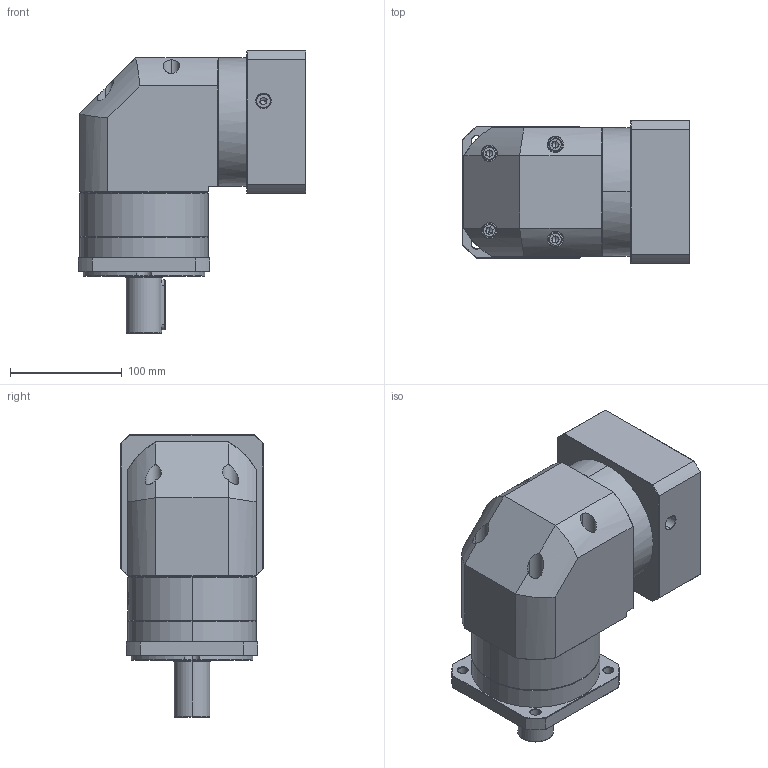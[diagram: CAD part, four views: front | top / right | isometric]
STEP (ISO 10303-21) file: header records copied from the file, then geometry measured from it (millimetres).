
FILE_DESCRIPTION (( 'STEP AP214' ), '1' );
FILE_NAME ('ZFR120A-D32-L1-P2-28-110-145-M8.step', '2023-08-27T08:08:16', ( '' ), ( '' ), 'SwSTEP 2.0', 'SolidWorks 2016', '' );
FILE_SCHEMA (( 'AUTOMOTIVE_DESIGN' ));
Length unit declared in the file: millimetre
Products named in the file (1): ZFR120A-D32-L1-P2-28-110-145-M8
Bounding box: 203.9 x 128 x 253 mm (x, y, z)
Volume: 3099484.5 mm3; surface area: 259882.5 mm2
Topology: 6 solids, 6 shells, 2267 faces, 5975 edges, 3810 vertices
Faces by surface type: plane 1062, cylinder 434, bspline 425, cone 338, torus 8
Entity records: 124432 total; most frequent: CARTESIAN_POINT 49042, ORIENTED_EDGE 11890, DIRECTION 8609, EDGE_CURVE 5945, VERTEX_POINT 3810, VECTOR 3163, LINE 3163, AXIS2_PLACEMENT_3D 2723
